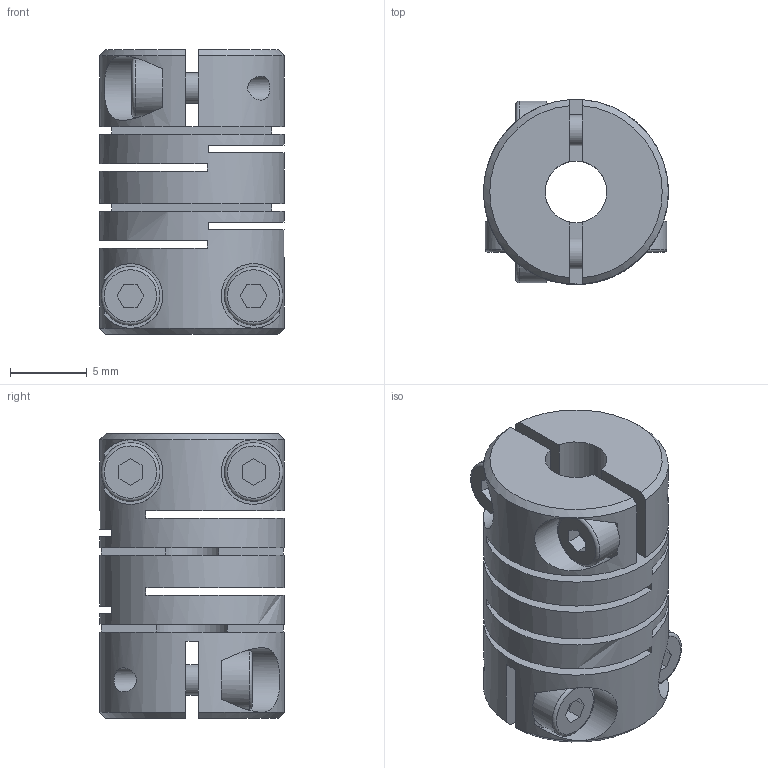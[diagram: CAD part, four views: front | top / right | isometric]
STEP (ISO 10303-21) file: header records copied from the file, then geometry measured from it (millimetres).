
FILE_DESCRIPTION (( 'STEP AP214' ), '1' );
FILE_NAME ('2246-12-B4-5-NI.step', '2022-05-27T09:30:46', ( '' ), ( '' ), 'SwSTEP 2.0', 'SolidWorks 2019', '' );
FILE_SCHEMA (( 'AUTOMOTIVE_DESIGN' ));
Length unit declared in the file: millimetre
Products named in the file (1): 2246-12-B4-5-NI
Bounding box: 12 x 11.99 x 18.5 mm (x, y, z)
Volume: 1490.9 mm3; surface area: 2227.4 mm2
Topology: 1 solids, 1 shells, 121 faces, 326 edges, 215 vertices
Faces by surface type: plane 87, cylinder 26, cone 4, torus 4
Full cylindrical faces by diameter (mm): 1.57 x4, 2 x4, 2.2 x4, 3.8 x4, 4 x1, 5 x2, 12 x1
Entity records: 4367 total; most frequent: CARTESIAN_POINT 910, DIRECTION 582, ORIENTED_EDGE 538, EDGE_CURVE 269, AXIS2_PLACEMENT_3D 211, VERTEX_POINT 187, EDGE_LOOP 178, VECTOR 160
